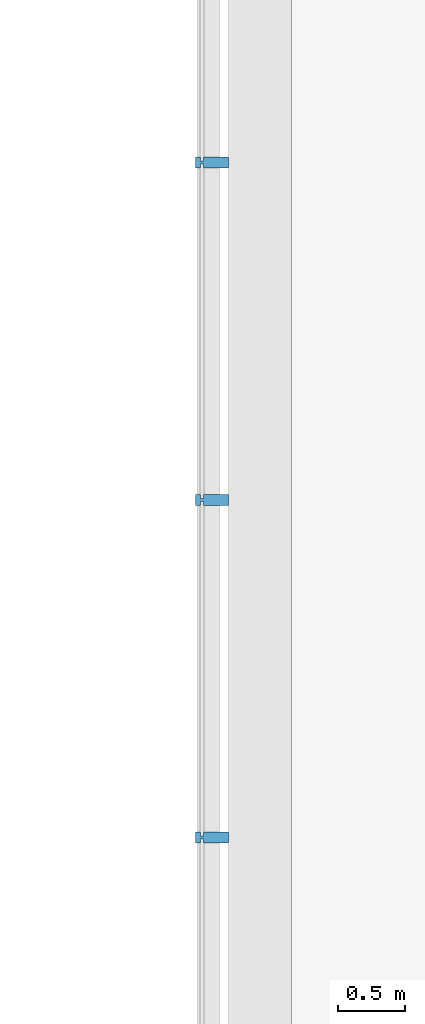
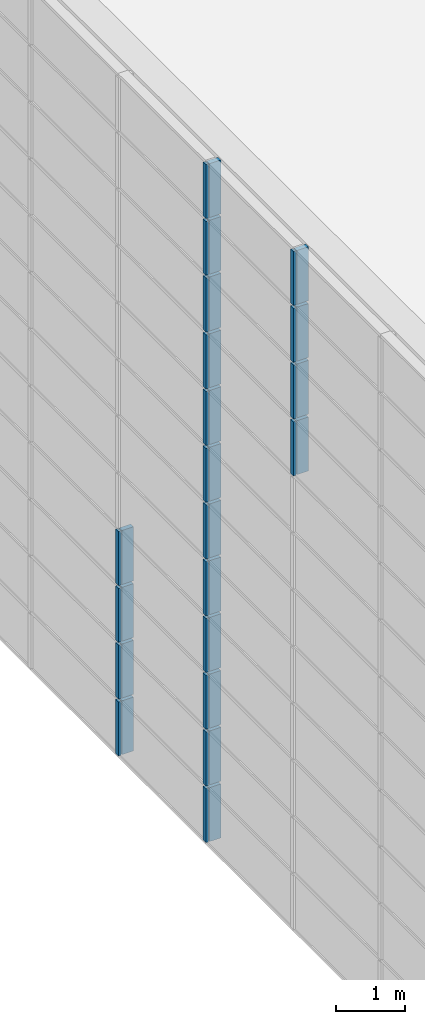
# One storey, part 68 of 105: 20 building element parts, 4 elements without a shape of their own.
"""IFC4 building model written with IfcOpenShell, lengths in millimetres."""

from ifc_helpers import new_model, entity, si_unit, converted_unit, derived_unit, direction, frame, origin_with_axes, place, context, subcontext, project, spatial, triangles, material, element, aggregate, save


model = new_model("IFC4")

# Units and contexts
model_context = context("Model", 3, precision=1e-05, world=origin_with_axes(), true_north=direction((0.0, 1.0)))
body_context = subcontext(model_context, "Body", "Model", "MODEL_VIEW")
ifc_project = project(units=[si_unit("LENGTHUNIT", "METRE", prefix="MILLI"), si_unit("AREAUNIT", "SQUARE_METRE"), si_unit("VOLUMEUNIT", "CUBIC_METRE"), converted_unit("PLANEANGLEUNIT", "DEGREE", entity("IfcLengthMeasure", 0.017453), si_unit("PLANEANGLEUNIT", "RADIAN"), dimensions=[0, 0, 0, 0, 0, 0, 0]), si_unit("SOLIDANGLEUNIT", "STERADIAN"), si_unit("MASSUNIT", "GRAM"), si_unit("TIMEUNIT", "SECOND"), si_unit("THERMODYNAMICTEMPERATUREUNIT", "DEGREE_CELSIUS"), si_unit("LUMINOUSINTENSITYUNIT", "LUMEN"), si_unit("POWERUNIT", "WATT"), derived_unit("THERMALTRANSMITTANCEUNIT", [(si_unit("POWERUNIT", "WATT"), 1), (si_unit("THERMODYNAMICTEMPERATUREUNIT", "KELVIN"), -1), (si_unit("AREAUNIT", "SQUARE_METRE"), -1)])], contexts=[model_context])

# Site, building, storey
site_placement = place(None, origin_with_axes())
site = spatial("IfcSite", under=ifc_project, at=site_placement, Name="Default Site", CompositionType="ELEMENT")
building_placement = place(site_placement, origin_with_axes())
building = spatial("IfcBuilding", under=site, at=building_placement, Name="Default Building", CompositionType="ELEMENT")
storey_placement = place(building_placement, origin_with_axes())
storey = spatial("IfcBuildingStorey", under=building, at=storey_placement, Name="OG - Story", CompositionType="ELEMENT", Elevation=0.0)

# Curtain wall, building element parts
curtain_wall_1_placement = place(storey_placement, origin_with_axes())
curtain_wall_1 = element("IfcCurtainWall", 1, at=curtain_wall_1_placement, inside=storey, Name="Fassade-003", PredefinedType="NOTDEFINED")
ifc_material = material(Name="Blech")
building_element_part_1_placement = place(curtain_wall_1_placement, frame((31551.391327, -51326.104944, 0.0), z_axis=(0.0, 0.0, 1.0), x_axis=(1.0, 0.0, 0.0)))
building_element_part_1 = element("IfcBuildingElementPart", 2, at=building_element_part_1_placement, material=ifc_material, Name="Blech", PredefinedType="NOTDEFINED", context=body_context, shape_type="Tessellation", body=[
    triangles([(200.0, 6275.789, 975.0), (10.0, 6275.789, 975.0), (200.0, 6355.789, 975.0), (10.0, 6305.789, 975.0), (10.0, 6325.789, 975.0), (-9.999, 6305.789, 975.0), (-9.999, 6325.789, 975.0), (-9.999, 6355.789, 975.0), (-9.999, 6275.789, 975.0), (-49.999, 6275.789, 975.0), (-49.999, 6355.789, 975.0), (10.0, 6355.789, 975.0), (10.0, 6325.789, 25.0), (-9.999, 6325.789, 25.0), (-9.999, 6355.789, 25.0), (-49.999, 6355.789, 25.0), (-49.999, 6275.789, 25.0), (-9.999, 6275.789, 25.0), (-9.999, 6305.789, 25.0), (10.0, 6305.789, 25.0), (10.0, 6275.789, 25.0), (200.0, 6275.789, 25.0), (200.0, 6355.789, 25.0), (10.0, 6355.789, 25.0)], [[1, 2, 3], [3, 2, 4], [3, 4, 5], [5, 4, 6], [5, 6, 7], [8, 9, 10], [8, 10, 11], [3, 5, 12], [5, 13, 14], [5, 14, 7], [7, 14, 15], [7, 15, 8], [15, 16, 11], [15, 11, 8], [10, 11, 16], [10, 16, 17], [18, 9, 10], [18, 10, 17], [9, 18, 19], [9, 19, 6], [4, 6, 19], [4, 19, 20], [2, 4, 20], [2, 20, 21], [2, 21, 22], [2, 22, 1], [3, 1, 22], [3, 22, 23], [12, 3, 23], [12, 23, 24], [12, 24, 13], [12, 13, 5], [23, 24, 22], [22, 24, 13], [22, 13, 20], [20, 13, 14], [20, 14, 19], [18, 15, 16], [18, 16, 17], [22, 20, 21]], closed=False),
])
building_element_part_2_placement = place(curtain_wall_1_placement, frame((31551.391327, -51326.104944, 0.0), z_axis=(0.0, 0.0, 1.0), x_axis=(1.0, 0.0, 0.0)))
building_element_part_2 = element("IfcBuildingElementPart", 3, at=building_element_part_2_placement, material=ifc_material, Name="Blech", PredefinedType="NOTDEFINED", context=body_context, shape_type="Tessellation", body=[
    triangles([(200.0, 8802.105, 975.0), (10.0, 8802.105, 975.0), (200.0, 8882.105, 975.0), (10.0, 8832.105, 975.0), (10.0, 8852.105, 975.0), (-9.999, 8832.105, 975.0), (-9.999, 8852.105, 975.0), (-9.999, 8882.105, 975.0), (-9.999, 8802.105, 975.0), (-49.999, 8802.105, 975.0), (-49.999, 8882.105, 975.0), (10.0, 8882.105, 975.0), (10.0, 8852.105, 25.0), (-9.999, 8852.105, 25.0), (-9.999, 8882.105, 25.0), (-49.999, 8882.105, 25.0), (-49.999, 8802.105, 25.0), (-9.999, 8802.105, 25.0), (-9.999, 8832.105, 25.0), (10.0, 8832.105, 25.0), (10.0, 8802.105, 25.0), (200.0, 8802.105, 25.0), (200.0, 8882.105, 25.0), (10.0, 8882.105, 25.0)], [[1, 2, 3], [3, 2, 4], [3, 4, 5], [5, 4, 6], [5, 6, 7], [8, 9, 10], [8, 10, 11], [3, 5, 12], [5, 13, 14], [5, 14, 7], [7, 14, 15], [7, 15, 8], [15, 16, 11], [15, 11, 8], [10, 11, 16], [10, 16, 17], [18, 9, 10], [18, 10, 17], [9, 18, 19], [9, 19, 6], [4, 6, 19], [4, 19, 20], [2, 4, 20], [2, 20, 21], [2, 21, 22], [2, 22, 1], [3, 1, 22], [3, 22, 23], [12, 3, 23], [12, 23, 24], [12, 24, 13], [12, 13, 5], [23, 24, 22], [22, 24, 13], [22, 13, 20], [20, 13, 14], [20, 14, 19], [18, 15, 16], [18, 16, 17], [22, 20, 21]], closed=False),
])
building_element_part_3_placement = place(curtain_wall_1_placement, frame((31551.391327, -51326.104944, 0.0), z_axis=(0.0, 0.0, 1.0), x_axis=(1.0, 0.0, 0.0)))
building_element_part_3 = element("IfcBuildingElementPart", 4, at=building_element_part_3_placement, material=ifc_material, Name="Blech", PredefinedType="NOTDEFINED", context=body_context, shape_type="Tessellation", body=[
    triangles([(200.0, 6275.789, 1975.0), (10.0, 6275.789, 1975.0), (200.0, 6355.789, 1975.0), (10.0, 6305.789, 1975.0), (10.0, 6325.789, 1975.0), (-9.999, 6305.789, 1975.0), (-9.999, 6325.789, 1975.0), (-9.999, 6355.789, 1975.0), (-9.999, 6275.789, 1975.0), (-49.999, 6275.789, 1975.0), (-49.999, 6355.789, 1975.0), (10.0, 6355.789, 1975.0), (10.0, 6325.789, 1025.0), (-9.999, 6325.789, 1025.0), (-9.999, 6355.789, 1025.0), (-49.999, 6355.789, 1025.0), (-49.999, 6275.789, 1025.0), (-9.999, 6275.789, 1025.0), (-9.999, 6305.789, 1025.0), (10.0, 6305.789, 1025.0), (10.0, 6275.789, 1025.0), (200.0, 6275.789, 1025.0), (200.0, 6355.789, 1025.0), (10.0, 6355.789, 1025.0)], [[1, 2, 3], [3, 2, 4], [3, 4, 5], [5, 4, 6], [5, 6, 7], [8, 9, 10], [8, 10, 11], [3, 5, 12], [5, 13, 14], [5, 14, 7], [7, 14, 15], [7, 15, 8], [15, 16, 11], [15, 11, 8], [10, 11, 16], [10, 16, 17], [18, 9, 10], [18, 10, 17], [9, 18, 19], [9, 19, 6], [4, 6, 19], [4, 19, 20], [2, 4, 20], [2, 20, 21], [2, 21, 22], [2, 22, 1], [3, 1, 22], [3, 22, 23], [12, 3, 23], [12, 23, 24], [12, 24, 13], [12, 13, 5], [23, 24, 22], [22, 24, 13], [22, 13, 20], [20, 13, 14], [20, 14, 19], [18, 15, 16], [18, 16, 17], [22, 20, 21]], closed=False),
])
building_element_part_4_placement = place(curtain_wall_1_placement, frame((31551.391327, -51326.104944, 0.0), z_axis=(0.0, 0.0, 1.0), x_axis=(1.0, 0.0, 0.0)))
building_element_part_4 = element("IfcBuildingElementPart", 5, at=building_element_part_4_placement, material=ifc_material, Name="Blech", PredefinedType="NOTDEFINED", context=body_context, shape_type="Tessellation", body=[
    triangles([(200.0, 8802.105, 1975.0), (10.0, 8802.105, 1975.0), (200.0, 8882.105, 1975.0), (10.0, 8832.105, 1975.0), (10.0, 8852.105, 1975.0), (-9.999, 8832.105, 1975.0), (-9.999, 8852.105, 1975.0), (-9.999, 8882.105, 1975.0), (-9.999, 8802.105, 1975.0), (-49.999, 8802.105, 1975.0), (-49.999, 8882.105, 1975.0), (10.0, 8882.105, 1975.0), (10.0, 8852.105, 1025.0), (-9.999, 8852.105, 1025.0), (-9.999, 8882.105, 1025.0), (-49.999, 8882.105, 1025.0), (-49.999, 8802.105, 1025.0), (-9.999, 8802.105, 1025.0), (-9.999, 8832.105, 1025.0), (10.0, 8832.105, 1025.0), (10.0, 8802.105, 1025.0), (200.0, 8802.105, 1025.0), (200.0, 8882.105, 1025.0), (10.0, 8882.105, 1025.0)], [[1, 2, 3], [3, 2, 4], [3, 4, 5], [5, 4, 6], [5, 6, 7], [8, 9, 10], [8, 10, 11], [3, 5, 12], [5, 13, 14], [5, 14, 7], [7, 14, 15], [7, 15, 8], [15, 16, 11], [15, 11, 8], [10, 11, 16], [10, 16, 17], [18, 9, 10], [18, 10, 17], [9, 18, 19], [9, 19, 6], [4, 6, 19], [4, 19, 20], [2, 4, 20], [2, 20, 21], [2, 21, 22], [2, 22, 1], [3, 1, 22], [3, 22, 23], [12, 3, 23], [12, 23, 24], [12, 24, 13], [12, 13, 5], [23, 24, 22], [22, 24, 13], [22, 13, 20], [20, 13, 14], [20, 14, 19], [18, 15, 16], [18, 16, 17], [22, 20, 21]], closed=False),
])
building_element_part_5_placement = place(curtain_wall_1_placement, frame((31551.391327, -51326.104944, 0.0), z_axis=(0.0, 0.0, 1.0), x_axis=(1.0, 0.0, 0.0)))
building_element_part_5 = element("IfcBuildingElementPart", 6, at=building_element_part_5_placement, material=ifc_material, Name="Blech", PredefinedType="NOTDEFINED", context=body_context, shape_type="Tessellation", body=[
    triangles([(200.0, 6275.789, 2975.0), (10.0, 6275.789, 2975.0), (200.0, 6355.789, 2975.0), (10.0, 6305.789, 2975.0), (10.0, 6325.789, 2975.0), (-9.999, 6305.789, 2975.0), (-9.999, 6325.789, 2975.0), (-9.999, 6355.789, 2975.0), (-9.999, 6275.789, 2975.0), (-49.999, 6275.789, 2975.0), (-49.999, 6355.789, 2975.0), (10.0, 6355.789, 2975.0), (10.0, 6325.789, 2025.0), (-9.999, 6325.789, 2025.0), (-9.999, 6355.789, 2025.0), (-49.999, 6355.789, 2025.0), (-49.999, 6275.789, 2025.0), (-9.999, 6275.789, 2025.0), (-9.999, 6305.789, 2025.0), (10.0, 6305.789, 2025.0), (10.0, 6275.789, 2025.0), (200.0, 6275.789, 2025.0), (200.0, 6355.789, 2025.0), (10.0, 6355.789, 2025.0)], [[1, 2, 3], [3, 2, 4], [3, 4, 5], [5, 4, 6], [5, 6, 7], [8, 9, 10], [8, 10, 11], [3, 5, 12], [5, 13, 14], [5, 14, 7], [7, 14, 15], [7, 15, 8], [15, 16, 11], [15, 11, 8], [10, 11, 16], [10, 16, 17], [18, 9, 10], [18, 10, 17], [9, 18, 19], [9, 19, 6], [4, 6, 19], [4, 19, 20], [2, 4, 20], [2, 20, 21], [2, 21, 22], [2, 22, 1], [3, 1, 22], [3, 22, 23], [12, 3, 23], [12, 23, 24], [12, 24, 13], [12, 13, 5], [23, 24, 22], [22, 24, 13], [22, 13, 20], [20, 13, 14], [20, 14, 19], [18, 15, 16], [18, 16, 17], [22, 20, 21]], closed=False),
])
building_element_part_6_placement = place(curtain_wall_1_placement, frame((31551.391327, -51326.104944, 0.0), z_axis=(0.0, 0.0, 1.0), x_axis=(1.0, 0.0, 0.0)))
building_element_part_6 = element("IfcBuildingElementPart", 7, at=building_element_part_6_placement, material=ifc_material, Name="Blech", PredefinedType="NOTDEFINED", context=body_context, shape_type="Tessellation", body=[
    triangles([(200.0, 8802.105, 2975.0), (10.0, 8802.105, 2975.0), (200.0, 8882.105, 2975.0), (10.0, 8832.105, 2975.0), (10.0, 8852.105, 2975.0), (-9.999, 8832.105, 2975.0), (-9.999, 8852.105, 2975.0), (-9.999, 8882.105, 2975.0), (-9.999, 8802.105, 2975.0), (-49.999, 8802.105, 2975.0), (-49.999, 8882.105, 2975.0), (10.0, 8882.105, 2975.0), (10.0, 8852.105, 2025.0), (-9.999, 8852.105, 2025.0), (-9.999, 8882.105, 2025.0), (-49.999, 8882.105, 2025.0), (-49.999, 8802.105, 2025.0), (-9.999, 8802.105, 2025.0), (-9.999, 8832.105, 2025.0), (10.0, 8832.105, 2025.0), (10.0, 8802.105, 2025.0), (200.0, 8802.105, 2025.0), (200.0, 8882.105, 2025.0), (10.0, 8882.105, 2025.0)], [[1, 2, 3], [3, 2, 4], [3, 4, 5], [5, 4, 6], [5, 6, 7], [8, 9, 10], [8, 10, 11], [3, 5, 12], [5, 13, 14], [5, 14, 7], [7, 14, 15], [7, 15, 8], [15, 16, 11], [15, 11, 8], [10, 11, 16], [10, 16, 17], [18, 9, 10], [18, 10, 17], [9, 18, 19], [9, 19, 6], [4, 6, 19], [4, 19, 20], [2, 4, 20], [2, 20, 21], [2, 21, 22], [2, 22, 1], [3, 1, 22], [3, 22, 23], [12, 3, 23], [12, 23, 24], [12, 24, 13], [12, 13, 5], [23, 24, 22], [22, 24, 13], [22, 13, 20], [20, 13, 14], [20, 14, 19], [18, 15, 16], [18, 16, 17], [22, 20, 21]], closed=False),
])
aggregate(curtain_wall_1, [building_element_part_1, building_element_part_2, building_element_part_3, building_element_part_4, building_element_part_5, building_element_part_6])

curtain_wall_2_placement = place(storey_placement, origin_with_axes())
curtain_wall_2 = element("IfcCurtainWall", 8, at=curtain_wall_2_placement, inside=storey, Name="Fassade-003", PredefinedType="NOTDEFINED")
building_element_part_7_placement = place(curtain_wall_2_placement, frame((31551.391327, -51326.104944, 3000.0), z_axis=(0.0, 0.0, 1.0), x_axis=(1.0, 0.0, 0.0)))
building_element_part_7 = element("IfcBuildingElementPart", 9, at=building_element_part_7_placement, material=ifc_material, Name="Blech", PredefinedType="NOTDEFINED", context=body_context, shape_type="Tessellation", body=[
    triangles([(200.0, 6275.789, 975.0), (10.0, 6275.789, 975.0), (200.0, 6355.789, 975.0), (10.0, 6305.789, 975.0), (10.0, 6325.789, 975.0), (-9.999, 6305.789, 975.0), (-9.999, 6325.789, 975.0), (-9.999, 6355.789, 975.0), (-9.999, 6275.789, 975.0), (-49.999, 6275.789, 975.0), (-49.999, 6355.789, 975.0), (10.0, 6355.789, 975.0), (10.0, 6325.789, 25.0), (-9.999, 6325.789, 25.0), (-9.999, 6355.789, 25.0), (-49.999, 6355.789, 25.0), (-49.999, 6275.789, 25.0), (-9.999, 6275.789, 25.0), (-9.999, 6305.789, 25.0), (10.0, 6305.789, 25.0), (10.0, 6275.789, 25.0), (200.0, 6275.789, 25.0), (200.0, 6355.789, 25.0), (10.0, 6355.789, 25.0)], [[1, 2, 3], [3, 2, 4], [3, 4, 5], [5, 4, 6], [5, 6, 7], [8, 9, 10], [8, 10, 11], [3, 5, 12], [5, 13, 14], [5, 14, 7], [7, 14, 15], [7, 15, 8], [15, 16, 11], [15, 11, 8], [10, 11, 16], [10, 16, 17], [18, 9, 10], [18, 10, 17], [9, 18, 19], [9, 19, 6], [4, 6, 19], [4, 19, 20], [2, 4, 20], [2, 20, 21], [2, 21, 22], [2, 22, 1], [3, 1, 22], [3, 22, 23], [12, 3, 23], [12, 23, 24], [12, 24, 13], [12, 13, 5], [23, 24, 22], [22, 24, 13], [22, 13, 20], [20, 13, 14], [20, 14, 19], [18, 15, 16], [18, 16, 17], [22, 20, 21]], closed=False),
])
building_element_part_8_placement = place(curtain_wall_2_placement, frame((31551.391327, -51326.104944, 3000.0), z_axis=(0.0, 0.0, 1.0), x_axis=(1.0, 0.0, 0.0)))
building_element_part_8 = element("IfcBuildingElementPart", 10, at=building_element_part_8_placement, material=ifc_material, Name="Blech", PredefinedType="NOTDEFINED", context=body_context, shape_type="Tessellation", body=[
    triangles([(200.0, 8802.105, 975.0), (10.0, 8802.105, 975.0), (200.0, 8882.105, 975.0), (10.0, 8832.105, 975.0), (10.0, 8852.105, 975.0), (-9.999, 8832.105, 975.0), (-9.999, 8852.105, 975.0), (-9.999, 8882.105, 975.0), (-9.999, 8802.105, 975.0), (-49.999, 8802.105, 975.0), (-49.999, 8882.105, 975.0), (10.0, 8882.105, 975.0), (10.0, 8852.105, 25.0), (-9.999, 8852.105, 25.0), (-9.999, 8882.105, 25.0), (-49.999, 8882.105, 25.0), (-49.999, 8802.105, 25.0), (-9.999, 8802.105, 25.0), (-9.999, 8832.105, 25.0), (10.0, 8832.105, 25.0), (10.0, 8802.105, 25.0), (200.0, 8802.105, 25.0), (200.0, 8882.105, 25.0), (10.0, 8882.105, 25.0)], [[1, 2, 3], [3, 2, 4], [3, 4, 5], [5, 4, 6], [5, 6, 7], [8, 9, 10], [8, 10, 11], [3, 5, 12], [5, 13, 14], [5, 14, 7], [7, 14, 15], [7, 15, 8], [15, 16, 11], [15, 11, 8], [10, 11, 16], [10, 16, 17], [18, 9, 10], [18, 10, 17], [9, 18, 19], [9, 19, 6], [4, 6, 19], [4, 19, 20], [2, 4, 20], [2, 20, 21], [2, 21, 22], [2, 22, 1], [3, 1, 22], [3, 22, 23], [12, 3, 23], [12, 23, 24], [12, 24, 13], [12, 13, 5], [23, 24, 22], [22, 24, 13], [22, 13, 20], [20, 13, 14], [20, 14, 19], [18, 15, 16], [18, 16, 17], [22, 20, 21]], closed=False),
])
building_element_part_9_placement = place(curtain_wall_2_placement, frame((31551.391327, -51326.104944, 3000.0), z_axis=(0.0, 0.0, 1.0), x_axis=(1.0, 0.0, 0.0)))
building_element_part_9 = element("IfcBuildingElementPart", 11, at=building_element_part_9_placement, material=ifc_material, Name="Blech", PredefinedType="NOTDEFINED", context=body_context, shape_type="Tessellation", body=[
    triangles([(200.0, 6275.789, 1975.0), (10.0, 6275.789, 1975.0), (200.0, 6355.789, 1975.0), (10.0, 6305.789, 1975.0), (10.0, 6325.789, 1975.0), (-9.999, 6305.789, 1975.0), (-9.999, 6325.789, 1975.0), (-9.999, 6355.789, 1975.0), (-9.999, 6275.789, 1975.0), (-49.999, 6275.789, 1975.0), (-49.999, 6355.789, 1975.0), (10.0, 6355.789, 1975.0), (10.0, 6325.789, 1025.0), (-9.999, 6325.789, 1025.0), (-9.999, 6355.789, 1025.0), (-49.999, 6355.789, 1025.0), (-49.999, 6275.789, 1025.0), (-9.999, 6275.789, 1025.0), (-9.999, 6305.789, 1025.0), (10.0, 6305.789, 1025.0), (10.0, 6275.789, 1025.0), (200.0, 6275.789, 1025.0), (200.0, 6355.789, 1025.0), (10.0, 6355.789, 1025.0)], [[1, 2, 3], [3, 2, 4], [3, 4, 5], [5, 4, 6], [5, 6, 7], [8, 9, 10], [8, 10, 11], [3, 5, 12], [5, 13, 14], [5, 14, 7], [7, 14, 15], [7, 15, 8], [15, 16, 11], [15, 11, 8], [10, 11, 16], [10, 16, 17], [18, 9, 10], [18, 10, 17], [9, 18, 19], [9, 19, 6], [4, 6, 19], [4, 19, 20], [2, 4, 20], [2, 20, 21], [2, 21, 22], [2, 22, 1], [3, 1, 22], [3, 22, 23], [12, 3, 23], [12, 23, 24], [12, 24, 13], [12, 13, 5], [23, 24, 22], [22, 24, 13], [22, 13, 20], [20, 13, 14], [20, 14, 19], [18, 15, 16], [18, 16, 17], [22, 20, 21]], closed=False),
])
building_element_part_10_placement = place(curtain_wall_2_placement, frame((31551.391327, -51326.104944, 3000.0), z_axis=(0.0, 0.0, 1.0), x_axis=(1.0, 0.0, 0.0)))
building_element_part_10 = element("IfcBuildingElementPart", 12, at=building_element_part_10_placement, material=ifc_material, Name="Blech", PredefinedType="NOTDEFINED", context=body_context, shape_type="Tessellation", body=[
    triangles([(200.0, 6275.789, 2975.0), (10.0, 6275.789, 2975.0), (200.0, 6355.789, 2975.0), (10.0, 6305.789, 2975.0), (10.0, 6325.789, 2975.0), (-9.999, 6305.789, 2975.0), (-9.999, 6325.789, 2975.0), (-9.999, 6355.789, 2975.0), (-9.999, 6275.789, 2975.0), (-49.999, 6275.789, 2975.0), (-49.999, 6355.789, 2975.0), (10.0, 6355.789, 2975.0), (10.0, 6325.789, 2025.0), (-9.999, 6325.789, 2025.0), (-9.999, 6355.789, 2025.0), (-49.999, 6355.789, 2025.0), (-49.999, 6275.789, 2025.0), (-9.999, 6275.789, 2025.0), (-9.999, 6305.789, 2025.0), (10.0, 6305.789, 2025.0), (10.0, 6275.789, 2025.0), (200.0, 6275.789, 2025.0), (200.0, 6355.789, 2025.0), (10.0, 6355.789, 2025.0)], [[1, 2, 3], [3, 2, 4], [3, 4, 5], [5, 4, 6], [5, 6, 7], [8, 9, 10], [8, 10, 11], [3, 5, 12], [5, 13, 14], [5, 14, 7], [7, 14, 15], [7, 15, 8], [15, 16, 11], [15, 11, 8], [10, 11, 16], [10, 16, 17], [18, 9, 10], [18, 10, 17], [9, 18, 19], [9, 19, 6], [4, 6, 19], [4, 19, 20], [2, 4, 20], [2, 20, 21], [2, 21, 22], [2, 22, 1], [3, 1, 22], [3, 22, 23], [12, 3, 23], [12, 23, 24], [12, 24, 13], [12, 13, 5], [23, 24, 22], [22, 24, 13], [22, 13, 20], [20, 13, 14], [20, 14, 19], [18, 15, 16], [18, 16, 17], [22, 20, 21]], closed=False),
])
aggregate(curtain_wall_2, [building_element_part_7, building_element_part_8, building_element_part_9, building_element_part_10])

curtain_wall_3_placement = place(storey_placement, origin_with_axes())
curtain_wall_3 = element("IfcCurtainWall", 13, at=curtain_wall_3_placement, inside=storey, Name="Fassade-003", PredefinedType="NOTDEFINED")
building_element_part_11_placement = place(curtain_wall_3_placement, frame((31551.391327, -51326.104944, 6000.0), z_axis=(0.0, 0.0, 1.0), x_axis=(1.0, 0.0, 0.0)))
building_element_part_11 = element("IfcBuildingElementPart", 14, at=building_element_part_11_placement, material=ifc_material, Name="Blech", PredefinedType="NOTDEFINED", context=body_context, shape_type="Tessellation", body=[
    triangles([(200.0, 6275.789, 975.0), (10.0, 6275.789, 975.0), (200.0, 6355.789, 975.0), (10.0, 6305.789, 975.0), (10.0, 6325.789, 975.0), (-9.999, 6305.789, 975.0), (-9.999, 6325.789, 975.0), (-9.999, 6355.789, 975.0), (-9.999, 6275.789, 975.0), (-49.999, 6275.789, 975.0), (-49.999, 6355.789, 975.0), (10.0, 6355.789, 975.0), (10.0, 6325.789, 25.0), (-9.999, 6325.789, 25.0), (-9.999, 6355.789, 25.0), (-49.999, 6355.789, 25.0), (-49.999, 6275.789, 25.0), (-9.999, 6275.789, 25.0), (-9.999, 6305.789, 25.0), (10.0, 6305.789, 25.0), (10.0, 6275.789, 25.0), (200.0, 6275.789, 25.0), (200.0, 6355.789, 25.0), (10.0, 6355.789, 25.0)], [[1, 2, 3], [3, 2, 4], [3, 4, 5], [5, 4, 6], [5, 6, 7], [8, 9, 10], [8, 10, 11], [3, 5, 12], [5, 13, 14], [5, 14, 7], [7, 14, 15], [7, 15, 8], [15, 16, 11], [15, 11, 8], [10, 11, 16], [10, 16, 17], [18, 9, 10], [18, 10, 17], [9, 18, 19], [9, 19, 6], [4, 6, 19], [4, 19, 20], [2, 4, 20], [2, 20, 21], [2, 21, 22], [2, 22, 1], [3, 1, 22], [3, 22, 23], [12, 3, 23], [12, 23, 24], [12, 24, 13], [12, 13, 5], [23, 24, 22], [22, 24, 13], [22, 13, 20], [20, 13, 14], [20, 14, 19], [18, 15, 16], [18, 16, 17], [22, 20, 21]], closed=False),
])
building_element_part_12_placement = place(curtain_wall_3_placement, frame((31551.391327, -51326.104944, 6000.0), z_axis=(0.0, 0.0, 1.0), x_axis=(1.0, 0.0, 0.0)))
building_element_part_12 = element("IfcBuildingElementPart", 15, at=building_element_part_12_placement, material=ifc_material, Name="Blech", PredefinedType="NOTDEFINED", context=body_context, shape_type="Tessellation", body=[
    triangles([(200.0, 6275.789, 1975.0), (10.0, 6275.789, 1975.0), (200.0, 6355.789, 1975.0), (10.0, 6305.789, 1975.0), (10.0, 6325.789, 1975.0), (-9.999, 6305.789, 1975.0), (-9.999, 6325.789, 1975.0), (-9.999, 6355.789, 1975.0), (-9.999, 6275.789, 1975.0), (-49.999, 6275.789, 1975.0), (-49.999, 6355.789, 1975.0), (10.0, 6355.789, 1975.0), (10.0, 6325.789, 1025.0), (-9.999, 6325.789, 1025.0), (-9.999, 6355.789, 1025.0), (-49.999, 6355.789, 1025.0), (-49.999, 6275.789, 1025.0), (-9.999, 6275.789, 1025.0), (-9.999, 6305.789, 1025.0), (10.0, 6305.789, 1025.0), (10.0, 6275.789, 1025.0), (200.0, 6275.789, 1025.0), (200.0, 6355.789, 1025.0), (10.0, 6355.789, 1025.0)], [[1, 2, 3], [3, 2, 4], [3, 4, 5], [5, 4, 6], [5, 6, 7], [8, 9, 10], [8, 10, 11], [3, 5, 12], [5, 13, 14], [5, 14, 7], [7, 14, 15], [7, 15, 8], [15, 16, 11], [15, 11, 8], [10, 11, 16], [10, 16, 17], [18, 9, 10], [18, 10, 17], [9, 18, 19], [9, 19, 6], [4, 6, 19], [4, 19, 20], [2, 4, 20], [2, 20, 21], [2, 21, 22], [2, 22, 1], [3, 1, 22], [3, 22, 23], [12, 3, 23], [12, 23, 24], [12, 24, 13], [12, 13, 5], [23, 24, 22], [22, 24, 13], [22, 13, 20], [20, 13, 14], [20, 14, 19], [18, 15, 16], [18, 16, 17], [22, 20, 21]], closed=False),
])
building_element_part_13_placement = place(curtain_wall_3_placement, frame((31551.391327, -51326.104944, 6000.0), z_axis=(0.0, 0.0, 1.0), x_axis=(1.0, 0.0, 0.0)))
building_element_part_13 = element("IfcBuildingElementPart", 16, at=building_element_part_13_placement, material=ifc_material, Name="Blech", PredefinedType="NOTDEFINED", context=body_context, shape_type="Tessellation", body=[
    triangles([(200.0, 3749.474, 2975.0), (10.0, 3749.474, 2975.0), (200.0, 3829.474, 2975.0), (10.0, 3779.474, 2975.0), (10.0, 3799.474, 2975.0), (-9.999, 3779.474, 2975.0), (-9.999, 3799.474, 2975.0), (-9.999, 3829.474, 2975.0), (-9.999, 3749.474, 2975.0), (-49.999, 3749.474, 2975.0), (-49.999, 3829.474, 2975.0), (10.0, 3829.474, 2975.0), (10.0, 3799.474, 2025.0), (-9.999, 3799.474, 2025.0), (-9.999, 3829.474, 2025.0), (-49.999, 3829.474, 2025.0), (-49.999, 3749.474, 2025.0), (-9.999, 3749.474, 2025.0), (-9.999, 3779.474, 2025.0), (10.0, 3779.474, 2025.0), (10.0, 3749.474, 2025.0), (200.0, 3749.474, 2025.0), (200.0, 3829.474, 2025.0), (10.0, 3829.474, 2025.0)], [[1, 2, 3], [3, 2, 4], [3, 4, 5], [5, 4, 6], [5, 6, 7], [8, 9, 10], [8, 10, 11], [3, 5, 12], [5, 13, 14], [5, 14, 7], [7, 14, 15], [7, 15, 8], [15, 16, 11], [15, 11, 8], [10, 11, 16], [10, 16, 17], [18, 9, 10], [18, 10, 17], [9, 18, 19], [9, 19, 6], [4, 6, 19], [4, 19, 20], [2, 4, 20], [2, 20, 21], [2, 21, 22], [2, 22, 1], [3, 1, 22], [3, 22, 23], [12, 3, 23], [12, 23, 24], [12, 24, 13], [12, 13, 5], [23, 24, 22], [22, 24, 13], [22, 13, 20], [20, 13, 14], [20, 14, 19], [18, 15, 16], [18, 16, 17], [22, 20, 21]], closed=False),
])
building_element_part_14_placement = place(curtain_wall_3_placement, frame((31551.391327, -51326.104944, 6000.0), z_axis=(0.0, 0.0, 1.0), x_axis=(1.0, 0.0, 0.0)))
building_element_part_14 = element("IfcBuildingElementPart", 17, at=building_element_part_14_placement, material=ifc_material, Name="Blech", PredefinedType="NOTDEFINED", context=body_context, shape_type="Tessellation", body=[
    triangles([(200.0, 6275.789, 2975.0), (10.0, 6275.789, 2975.0), (200.0, 6355.789, 2975.0), (10.0, 6305.789, 2975.0), (10.0, 6325.789, 2975.0), (-9.999, 6305.789, 2975.0), (-9.999, 6325.789, 2975.0), (-9.999, 6355.789, 2975.0), (-9.999, 6275.789, 2975.0), (-49.999, 6275.789, 2975.0), (-49.999, 6355.789, 2975.0), (10.0, 6355.789, 2975.0), (10.0, 6325.789, 2025.0), (-9.999, 6325.789, 2025.0), (-9.999, 6355.789, 2025.0), (-49.999, 6355.789, 2025.0), (-49.999, 6275.789, 2025.0), (-9.999, 6275.789, 2025.0), (-9.999, 6305.789, 2025.0), (10.0, 6305.789, 2025.0), (10.0, 6275.789, 2025.0), (200.0, 6275.789, 2025.0), (200.0, 6355.789, 2025.0), (10.0, 6355.789, 2025.0)], [[1, 2, 3], [3, 2, 4], [3, 4, 5], [5, 4, 6], [5, 6, 7], [8, 9, 10], [8, 10, 11], [3, 5, 12], [5, 13, 14], [5, 14, 7], [7, 14, 15], [7, 15, 8], [15, 16, 11], [15, 11, 8], [10, 11, 16], [10, 16, 17], [18, 9, 10], [18, 10, 17], [9, 18, 19], [9, 19, 6], [4, 6, 19], [4, 19, 20], [2, 4, 20], [2, 20, 21], [2, 21, 22], [2, 22, 1], [3, 1, 22], [3, 22, 23], [12, 3, 23], [12, 23, 24], [12, 24, 13], [12, 13, 5], [23, 24, 22], [22, 24, 13], [22, 13, 20], [20, 13, 14], [20, 14, 19], [18, 15, 16], [18, 16, 17], [22, 20, 21]], closed=False),
])
aggregate(curtain_wall_3, [building_element_part_11, building_element_part_12, building_element_part_13, building_element_part_14])

curtain_wall_4_placement = place(storey_placement, origin_with_axes())
curtain_wall_4 = element("IfcCurtainWall", 18, at=curtain_wall_4_placement, inside=storey, Name="Fassade-003", PredefinedType="NOTDEFINED")
building_element_part_15_placement = place(curtain_wall_4_placement, frame((31551.391327, -51326.104944, 9000.0), z_axis=(0.0, 0.0, 1.0), x_axis=(1.0, 0.0, 0.0)))
building_element_part_15 = element("IfcBuildingElementPart", 19, at=building_element_part_15_placement, material=ifc_material, Name="Blech", PredefinedType="NOTDEFINED", context=body_context, shape_type="Tessellation", body=[
    triangles([(200.0, 3749.474, 975.0), (10.0, 3749.474, 975.0), (200.0, 3829.474, 975.0), (10.0, 3779.474, 975.0), (10.0, 3799.474, 975.0), (-9.999, 3779.474, 975.0), (-9.999, 3799.474, 975.0), (-9.999, 3829.474, 975.0), (-9.999, 3749.474, 975.0), (-49.999, 3749.474, 975.0), (-49.999, 3829.474, 975.0), (10.0, 3829.474, 975.0), (10.0, 3799.474, 25.0), (-9.999, 3799.474, 25.0), (-9.999, 3829.474, 25.0), (-49.999, 3829.474, 25.0), (-49.999, 3749.474, 25.0), (-9.999, 3749.474, 25.0), (-9.999, 3779.474, 25.0), (10.0, 3779.474, 25.0), (10.0, 3749.474, 25.0), (200.0, 3749.474, 25.0), (200.0, 3829.474, 25.0), (10.0, 3829.474, 25.0)], [[1, 2, 3], [3, 2, 4], [3, 4, 5], [5, 4, 6], [5, 6, 7], [8, 9, 10], [8, 10, 11], [3, 5, 12], [5, 13, 14], [5, 14, 7], [7, 14, 15], [7, 15, 8], [15, 16, 11], [15, 11, 8], [10, 11, 16], [10, 16, 17], [18, 9, 10], [18, 10, 17], [9, 18, 19], [9, 19, 6], [4, 6, 19], [4, 19, 20], [2, 4, 20], [2, 20, 21], [2, 21, 22], [2, 22, 1], [3, 1, 22], [3, 22, 23], [12, 3, 23], [12, 23, 24], [12, 24, 13], [12, 13, 5], [23, 24, 22], [22, 24, 13], [22, 13, 20], [20, 13, 14], [20, 14, 19], [18, 15, 16], [18, 16, 17], [22, 20, 21]], closed=False),
])
building_element_part_16_placement = place(curtain_wall_4_placement, frame((31551.391327, -51326.104944, 9000.0), z_axis=(0.0, 0.0, 1.0), x_axis=(1.0, 0.0, 0.0)))
building_element_part_16 = element("IfcBuildingElementPart", 20, at=building_element_part_16_placement, material=ifc_material, Name="Blech", PredefinedType="NOTDEFINED", context=body_context, shape_type="Tessellation", body=[
    triangles([(200.0, 6275.789, 975.0), (10.0, 6275.789, 975.0), (200.0, 6355.789, 975.0), (10.0, 6305.789, 975.0), (10.0, 6325.789, 975.0), (-9.999, 6305.789, 975.0), (-9.999, 6325.789, 975.0), (-9.999, 6355.789, 975.0), (-9.999, 6275.789, 975.0), (-49.999, 6275.789, 975.0), (-49.999, 6355.789, 975.0), (10.0, 6355.789, 975.0), (10.0, 6325.789, 25.0), (-9.999, 6325.789, 25.0), (-9.999, 6355.789, 25.0), (-49.999, 6355.789, 25.0), (-49.999, 6275.789, 25.0), (-9.999, 6275.789, 25.0), (-9.999, 6305.789, 25.0), (10.0, 6305.789, 25.0), (10.0, 6275.789, 25.0), (200.0, 6275.789, 25.0), (200.0, 6355.789, 25.0), (10.0, 6355.789, 25.0)], [[1, 2, 3], [3, 2, 4], [3, 4, 5], [5, 4, 6], [5, 6, 7], [8, 9, 10], [8, 10, 11], [3, 5, 12], [5, 13, 14], [5, 14, 7], [7, 14, 15], [7, 15, 8], [15, 16, 11], [15, 11, 8], [10, 11, 16], [10, 16, 17], [18, 9, 10], [18, 10, 17], [9, 18, 19], [9, 19, 6], [4, 6, 19], [4, 19, 20], [2, 4, 20], [2, 20, 21], [2, 21, 22], [2, 22, 1], [3, 1, 22], [3, 22, 23], [12, 3, 23], [12, 23, 24], [12, 24, 13], [12, 13, 5], [23, 24, 22], [22, 24, 13], [22, 13, 20], [20, 13, 14], [20, 14, 19], [18, 15, 16], [18, 16, 17], [22, 20, 21]], closed=False),
])
building_element_part_17_placement = place(curtain_wall_4_placement, frame((31551.391327, -51326.104944, 9000.0), z_axis=(0.0, 0.0, 1.0), x_axis=(1.0, 0.0, 0.0)))
building_element_part_17 = element("IfcBuildingElementPart", 21, at=building_element_part_17_placement, material=ifc_material, Name="Blech", PredefinedType="NOTDEFINED", context=body_context, shape_type="Tessellation", body=[
    triangles([(200.0, 3749.474, 1975.0), (10.0, 3749.474, 1975.0), (200.0, 3829.474, 1975.0), (10.0, 3779.474, 1975.0), (10.0, 3799.474, 1975.0), (-9.999, 3779.474, 1975.0), (-9.999, 3799.474, 1975.0), (-9.999, 3829.474, 1975.0), (-9.999, 3749.474, 1975.0), (-49.999, 3749.474, 1975.0), (-49.999, 3829.474, 1975.0), (10.0, 3829.474, 1975.0), (10.0, 3799.474, 1025.0), (-9.999, 3799.474, 1025.0), (-9.999, 3829.474, 1025.0), (-49.999, 3829.474, 1025.0), (-49.999, 3749.474, 1025.0), (-9.999, 3749.474, 1025.0), (-9.999, 3779.474, 1025.0), (10.0, 3779.474, 1025.0), (10.0, 3749.474, 1025.0), (200.0, 3749.474, 1025.0), (200.0, 3829.474, 1025.0), (10.0, 3829.474, 1025.0)], [[1, 2, 3], [3, 2, 4], [3, 4, 5], [5, 4, 6], [5, 6, 7], [8, 9, 10], [8, 10, 11], [3, 5, 12], [5, 13, 14], [5, 14, 7], [7, 14, 15], [7, 15, 8], [15, 16, 11], [15, 11, 8], [10, 11, 16], [10, 16, 17], [18, 9, 10], [18, 10, 17], [9, 18, 19], [9, 19, 6], [4, 6, 19], [4, 19, 20], [2, 4, 20], [2, 20, 21], [2, 21, 22], [2, 22, 1], [3, 1, 22], [3, 22, 23], [12, 3, 23], [12, 23, 24], [12, 24, 13], [12, 13, 5], [23, 24, 22], [22, 24, 13], [22, 13, 20], [20, 13, 14], [20, 14, 19], [18, 15, 16], [18, 16, 17], [22, 20, 21]], closed=False),
])
building_element_part_18_placement = place(curtain_wall_4_placement, frame((31551.391327, -51326.104944, 9000.0), z_axis=(0.0, 0.0, 1.0), x_axis=(1.0, 0.0, 0.0)))
building_element_part_18 = element("IfcBuildingElementPart", 22, at=building_element_part_18_placement, material=ifc_material, Name="Blech", PredefinedType="NOTDEFINED", context=body_context, shape_type="Tessellation", body=[
    triangles([(200.0, 6275.789, 1975.0), (10.0, 6275.789, 1975.0), (200.0, 6355.789, 1975.0), (10.0, 6305.789, 1975.0), (10.0, 6325.789, 1975.0), (-9.999, 6305.789, 1975.0), (-9.999, 6325.789, 1975.0), (-9.999, 6355.789, 1975.0), (-9.999, 6275.789, 1975.0), (-49.999, 6275.789, 1975.0), (-49.999, 6355.789, 1975.0), (10.0, 6355.789, 1975.0), (10.0, 6325.789, 1025.0), (-9.999, 6325.789, 1025.0), (-9.999, 6355.789, 1025.0), (-49.999, 6355.789, 1025.0), (-49.999, 6275.789, 1025.0), (-9.999, 6275.789, 1025.0), (-9.999, 6305.789, 1025.0), (10.0, 6305.789, 1025.0), (10.0, 6275.789, 1025.0), (200.0, 6275.789, 1025.0), (200.0, 6355.789, 1025.0), (10.0, 6355.789, 1025.0)], [[1, 2, 3], [3, 2, 4], [3, 4, 5], [5, 4, 6], [5, 6, 7], [8, 9, 10], [8, 10, 11], [3, 5, 12], [5, 13, 14], [5, 14, 7], [7, 14, 15], [7, 15, 8], [15, 16, 11], [15, 11, 8], [10, 11, 16], [10, 16, 17], [18, 9, 10], [18, 10, 17], [9, 18, 19], [9, 19, 6], [4, 6, 19], [4, 19, 20], [2, 4, 20], [2, 20, 21], [2, 21, 22], [2, 22, 1], [3, 1, 22], [3, 22, 23], [12, 3, 23], [12, 23, 24], [12, 24, 13], [12, 13, 5], [23, 24, 22], [22, 24, 13], [22, 13, 20], [20, 13, 14], [20, 14, 19], [18, 15, 16], [18, 16, 17], [22, 20, 21]], closed=False),
])
building_element_part_19_placement = place(curtain_wall_4_placement, frame((31551.391327, -51326.104944, 9000.0), z_axis=(0.0, 0.0, 1.0), x_axis=(1.0, 0.0, 0.0)))
building_element_part_19 = element("IfcBuildingElementPart", 23, at=building_element_part_19_placement, material=ifc_material, Name="Blech", PredefinedType="NOTDEFINED", context=body_context, shape_type="Tessellation", body=[
    triangles([(200.0, 3749.474, 2975.0), (10.0, 3749.474, 2975.0), (200.0, 3829.474, 2975.0), (10.0, 3779.474, 2975.0), (10.0, 3799.474, 2975.0), (-9.999, 3779.474, 2975.0), (-9.999, 3799.474, 2975.0), (-9.999, 3829.474, 2975.0), (-9.999, 3749.474, 2975.0), (-49.999, 3749.474, 2975.0), (-49.999, 3829.474, 2975.0), (10.0, 3829.474, 2975.0), (10.0, 3799.474, 2025.0), (-9.999, 3799.474, 2025.0), (-9.999, 3829.474, 2025.0), (-49.999, 3829.474, 2025.0), (-49.999, 3749.474, 2025.0), (-9.999, 3749.474, 2025.0), (-9.999, 3779.474, 2025.0), (10.0, 3779.474, 2025.0), (10.0, 3749.474, 2025.0), (200.0, 3749.474, 2025.0), (200.0, 3829.474, 2025.0), (10.0, 3829.474, 2025.0)], [[1, 2, 3], [3, 2, 4], [3, 4, 5], [5, 4, 6], [5, 6, 7], [8, 9, 10], [8, 10, 11], [3, 5, 12], [5, 13, 14], [5, 14, 7], [7, 14, 15], [7, 15, 8], [15, 16, 11], [15, 11, 8], [10, 11, 16], [10, 16, 17], [18, 9, 10], [18, 10, 17], [9, 18, 19], [9, 19, 6], [4, 6, 19], [4, 19, 20], [2, 4, 20], [2, 20, 21], [2, 21, 22], [2, 22, 1], [3, 1, 22], [3, 22, 23], [12, 3, 23], [12, 23, 24], [12, 24, 13], [12, 13, 5], [23, 24, 22], [22, 24, 13], [22, 13, 20], [20, 13, 14], [20, 14, 19], [18, 15, 16], [18, 16, 17], [22, 20, 21]], closed=False),
])
building_element_part_20_placement = place(curtain_wall_4_placement, frame((31551.391327, -51326.104944, 9000.0), z_axis=(0.0, 0.0, 1.0), x_axis=(1.0, 0.0, 0.0)))
building_element_part_20 = element("IfcBuildingElementPart", 24, at=building_element_part_20_placement, material=ifc_material, Name="Blech", PredefinedType="NOTDEFINED", context=body_context, shape_type="Tessellation", body=[
    triangles([(200.0, 6275.789, 2975.0), (10.0, 6275.789, 2975.0), (200.0, 6355.789, 2975.0), (10.0, 6305.789, 2975.0), (10.0, 6325.789, 2975.0), (-9.999, 6305.789, 2975.0), (-9.999, 6325.789, 2975.0), (-9.999, 6355.789, 2975.0), (-9.999, 6275.789, 2975.0), (-49.999, 6275.789, 2975.0), (-49.999, 6355.789, 2975.0), (10.0, 6355.789, 2975.0), (10.0, 6325.789, 2025.0), (-9.999, 6325.789, 2025.0), (-9.999, 6355.789, 2025.0), (-49.999, 6355.789, 2025.0), (-49.999, 6275.789, 2025.0), (-9.999, 6275.789, 2025.0), (-9.999, 6305.789, 2025.0), (10.0, 6305.789, 2025.0), (10.0, 6275.789, 2025.0), (200.0, 6275.789, 2025.0), (200.0, 6355.789, 2025.0), (10.0, 6355.789, 2025.0)], [[1, 2, 3], [3, 2, 4], [3, 4, 5], [5, 4, 6], [5, 6, 7], [8, 9, 10], [8, 10, 11], [3, 5, 12], [5, 13, 14], [5, 14, 7], [7, 14, 15], [7, 15, 8], [15, 16, 11], [15, 11, 8], [10, 11, 16], [10, 16, 17], [18, 9, 10], [18, 10, 17], [9, 18, 19], [9, 19, 6], [4, 6, 19], [4, 19, 20], [2, 4, 20], [2, 20, 21], [2, 21, 22], [2, 22, 1], [3, 1, 22], [3, 22, 23], [12, 3, 23], [12, 23, 24], [12, 24, 13], [12, 13, 5], [23, 24, 22], [22, 24, 13], [22, 13, 20], [20, 13, 14], [20, 14, 19], [18, 15, 16], [18, 16, 17], [22, 20, 21]], closed=False),
])
aggregate(curtain_wall_4, [building_element_part_15, building_element_part_16, building_element_part_17, building_element_part_18, building_element_part_19, building_element_part_20])

save(model, "model.ifc")
